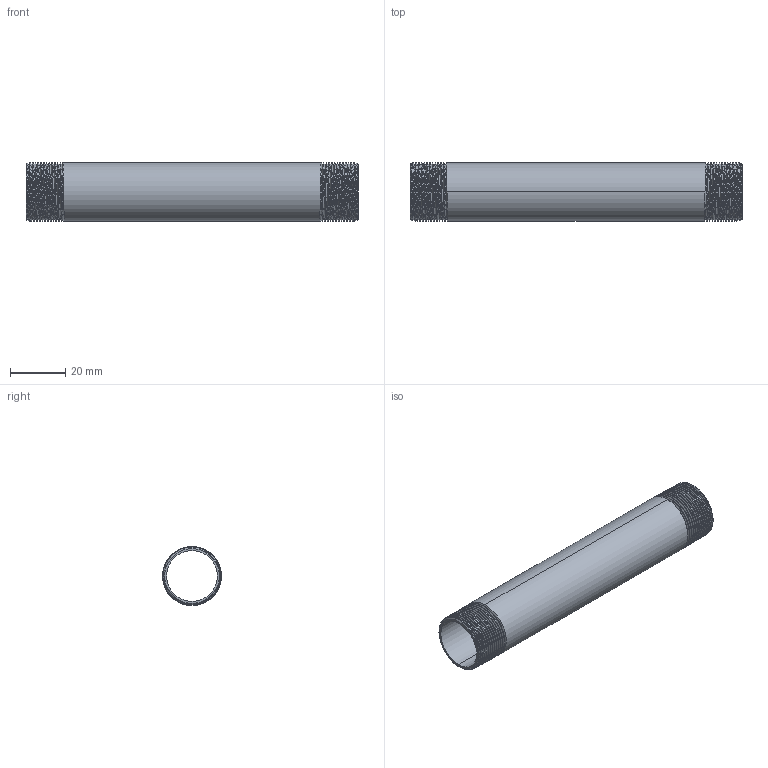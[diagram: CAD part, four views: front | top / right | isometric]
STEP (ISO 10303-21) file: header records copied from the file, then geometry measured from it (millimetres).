
FILE_DESCRIPTION (( 'STEP AP203' ), '1' );
FILE_NAME ('3D_R210_1-2x120_17185830.STEP', '2024-08-16T13:45:31', ( '' ), ( '' ), 'SwSTEP 2.0', 'SolidWorks 2024', '' );
FILE_SCHEMA (( 'CONFIG_CONTROL_DESIGN' ));
Length unit declared in the file: millimetre
Products named in the file (1): 3D_R210_1-2x120_17185830
Bounding box: 120 x 21.29 x 21.3 mm (x, y, z)
Volume: 10603.4 mm3; surface area: 15892.8 mm2
Topology: 1 solids, 1 shells, 72 faces, 202 edges, 132 vertices
Faces by surface type: cone 58, bspline 6, cylinder 4, plane 4
Entity records: 11263 total; most frequent: CARTESIAN_POINT 9585, ORIENTED_EDGE 404, DIRECTION 230, EDGE_CURVE 202, VERTEX_POINT 132, B_SPLINE_CURVE_WITH_KNOTS 112, AXIS2_PLACEMENT_3D 81, EDGE_LOOP 74
